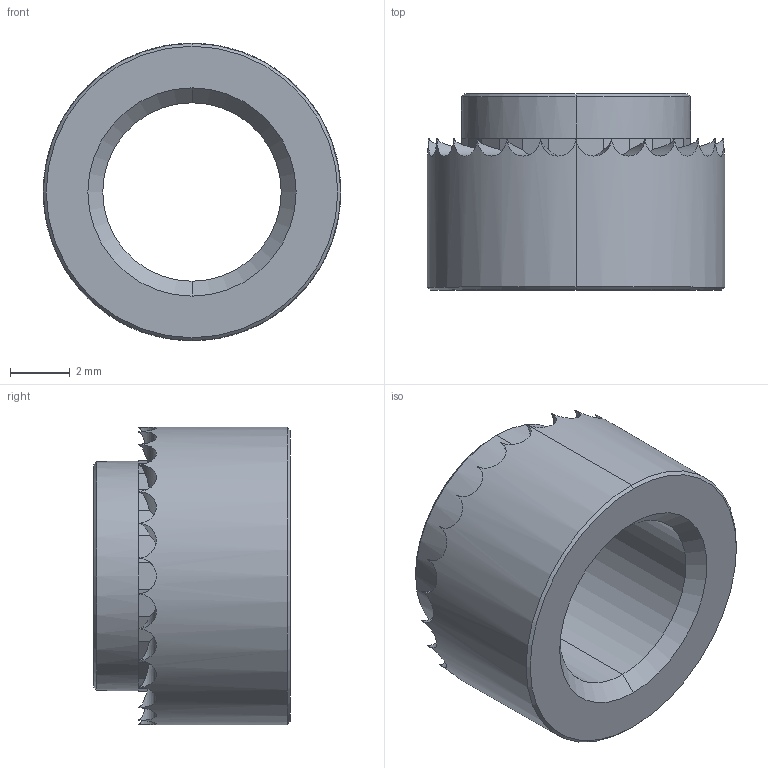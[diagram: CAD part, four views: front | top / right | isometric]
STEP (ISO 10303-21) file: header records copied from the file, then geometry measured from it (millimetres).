
FILE_DESCRIPTION (( 'STEP AP203' ), '1' );
FILE_NAME ('P0829.060-20G-ZP.step', '2019-03-21T22:18:34', ( '' ), ( '' ), 'SwSTEP 2.0', 'SolidWorks 2017', '' );
FILE_SCHEMA (( 'CONFIG_CONTROL_DESIGN' ));
Length unit declared in the file: millimetre
Products named in the file (1): P0829.060-20G-ZP
Bounding box: 10 x 6.6 x 10 mm (x, y, z)
Volume: 262.6 mm3; surface area: 414.5 mm2
Topology: 1 solids, 1 shells, 120 faces, 294 edges, 176 vertices
Faces by surface type: plane 80, cylinder 32, cone 8
Entity records: 3739 total; most frequent: CARTESIAN_POINT 903, ORIENTED_EDGE 588, DIRECTION 582, EDGE_CURVE 294, AXIS2_PLACEMENT_3D 219, VERTEX_POINT 176, LINE 144, VECTOR 144
